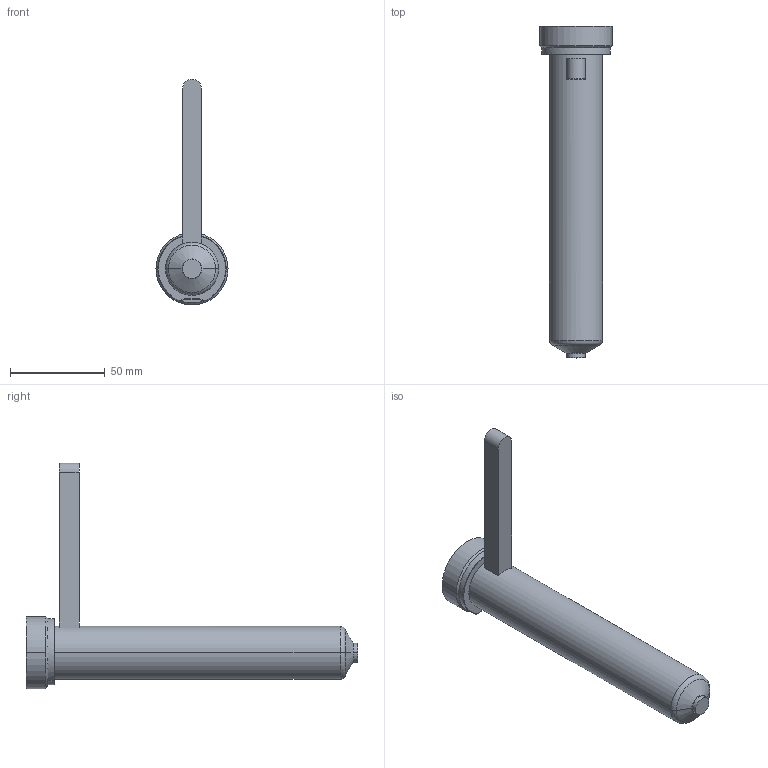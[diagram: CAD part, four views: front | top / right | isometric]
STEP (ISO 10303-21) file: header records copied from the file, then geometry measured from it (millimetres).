
FILE_DESCRIPTION((''),'2;1');
FILE_NAME('EO06_SG_SG_160_COT','2024-02-19T12:17:00',('sundharh'),(''),'CREO PARAMETRIC BY PTC INC, 2023154','CREO PARAMETRIC BY PTC INC, 2023154','');
FILE_SCHEMA(('CONFIG_CONTROL_DESIGN'));
Length unit declared in the file: millimetre
Products named in the file (1): EO06_SG_SG_160_COT
Bounding box: 38 x 175 x 119 mm (x, y, z)
Volume: 120970.2 mm3; surface area: 20969.4 mm2
Topology: 1 solids, 1 shells, 31 faces, 67 edges, 40 vertices
Faces by surface type: cylinder 11, plane 9, torus 7, cone 4
Entity records: 963 total; most frequent: CARTESIAN_POINT 230, DIRECTION 159, ORIENTED_EDGE 134, AXIS2_PLACEMENT_3D 67, EDGE_CURVE 67, VERTEX_POINT 40, CIRCLE 36, EDGE_LOOP 33
